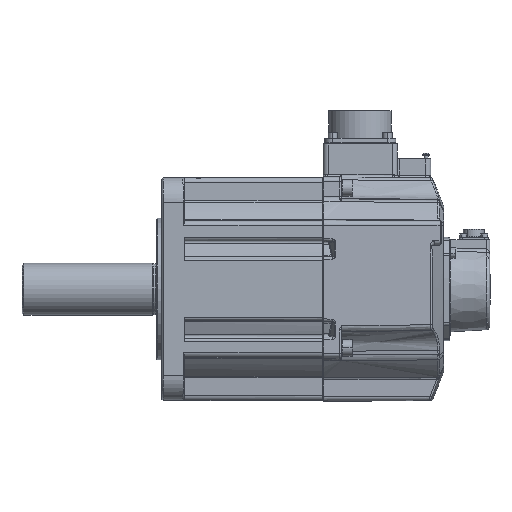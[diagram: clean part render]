
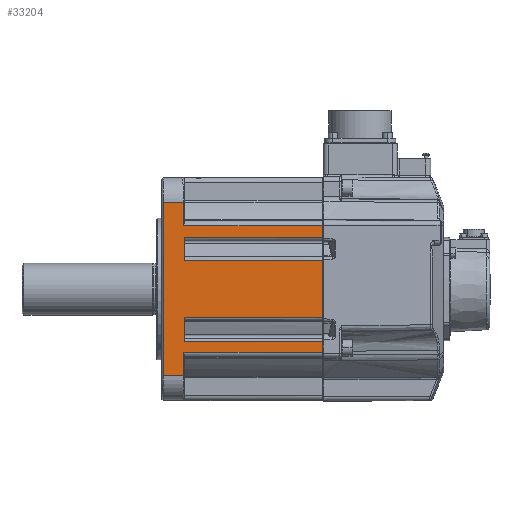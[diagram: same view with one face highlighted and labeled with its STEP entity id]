
A CAD part, left-side view. The second image highlights one B-rep face of the part: STEP entity #33204.
In plain terms, the highlighted planar face has unit normal (-1, 0, 0).
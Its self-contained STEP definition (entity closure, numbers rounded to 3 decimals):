
#1126=DIRECTION('',(0.,0.,-1.));
#1127=VECTOR('',#1126,9.155);
#1128=CARTESIAN_POINT('',(-90.,-103.3,-41.948));
#1129=LINE('',#1128,#1127);
#1242=DIRECTION('',(0.,1.,0.));
#1243=VECTOR('',#1242,111.8);
#1244=CARTESIAN_POINT('',(-90.,-103.3,41.948));
#1245=LINE('',#1244,#1243);
#1246=DIRECTION('',(0.,1.,0.));
#1247=VECTOR('',#1246,111.8);
#1248=CARTESIAN_POINT('',(-90.,-103.3,23.052));
#1249=LINE('',#1248,#1247);
#1250=DIRECTION('',(0.,0.,-1.));
#1251=VECTOR('',#1250,46.103);
#1252=CARTESIAN_POINT('',(-90.,-103.3,23.052));
#1253=LINE('',#1252,#1251);
#1254=DIRECTION('',(0.,1.,0.));
#1255=VECTOR('',#1254,111.8);
#1256=CARTESIAN_POINT('',(-90.,-103.3,-23.052));
#1257=LINE('',#1256,#1255);
#1258=DIRECTION('',(0.,1.,0.));
#1259=VECTOR('',#1258,111.8);
#1260=CARTESIAN_POINT('',(-90.,-103.3,-41.948));
#1261=LINE('',#1260,#1259);
#1262=DIRECTION('',(0.,1.,0.));
#1263=VECTOR('',#1262,112.121);
#1264=CARTESIAN_POINT('',(-90.,-103.3,-51.103));
#1265=LINE('',#1264,#1263);
#1266=DIRECTION('',(0.,1.,0.));
#1267=VECTOR('',#1266,16.349);
#1268=CARTESIAN_POINT('',(-90.,9.151,
-70.));
#1269=LINE('',#1268,#1267);
#1270=DIRECTION('',(0.,0.,1.));
#1271=VECTOR('',#1270,140.);
#1272=CARTESIAN_POINT('',(-90.,25.5,
-70.));
#1273=LINE('',#1272,#1271);
#1274=DIRECTION('',(0.,-1.,0.));
#1275=VECTOR('',#1274,112.121);
#1276=CARTESIAN_POINT('',(-90.,8.821,51.103));
#1277=LINE('',#1276,#1275);
#1376=DIRECTION('',(0.,0.,-1.));
#1377=VECTOR('',#1376,9.155);
#1378=CARTESIAN_POINT('',(-90.,-103.3,51.103));
#1379=LINE('',#1378,#1377);
#2010=CARTESIAN_POINT('',(-90.,9.151,70.));
#2012=DIRECTION('',(0.,1.,0.));
#2013=VECTOR('',#2012,16.349);
#2014=CARTESIAN_POINT('',(-90.,9.151,70.));
#2015=LINE('',#2014,#2013);
#2332=DIRECTION('',(0.,0.017,1.));
#2333=VECTOR('',#2332,18.9);
#2334=CARTESIAN_POINT('',(-90.,8.821,51.103));
#2335=LINE('',#2334,#2333);
#2371=CARTESIAN_POINT('',(-90.,9.151,
-70.));
#2510=DIRECTION('',(0.,-0.017,1.));
#2511=VECTOR('',#2510,18.9);
#2512=CARTESIAN_POINT('',(-90.,9.151,
-70.));
#2513=LINE('',#2512,#2511);
#15280=DIRECTION('',(0.,0.,1.));
#15281=VECTOR('',#15280,18.897);
#15282=CARTESIAN_POINT('',(-90.,8.5,23.052));
#15283=LINE('',#15282,#15281);
#26703=DIRECTION('',(0.,0.,1.));
#26704=VECTOR('',#26703,18.897);
#26705=CARTESIAN_POINT('',(-90.,8.5,-41.948));
#26706=LINE('',#26705,#26704);
#27678=CARTESIAN_POINT('',(-90.,25.5,-70.));
#27679=VERTEX_POINT('',#27678);
#27682=CARTESIAN_POINT('',(-90.,25.5,
70.));
#27683=VERTEX_POINT('',#27682);
#27769=VERTEX_POINT('',#2010);
#27772=VERTEX_POINT('',#2371);
#27892=CARTESIAN_POINT('',(-90.,-103.3,41.948));
#27893=CARTESIAN_POINT('',(-90.,8.5,41.948));
#27894=VERTEX_POINT('',#27892);
#27895=VERTEX_POINT('',#27893);
#27904=CARTESIAN_POINT('',(-90.,-103.3,23.052));
#27905=VERTEX_POINT('',#27904);
#27906=CARTESIAN_POINT('',(-90.,8.5,23.052));
#27907=VERTEX_POINT('',#27906);
#27912=CARTESIAN_POINT('',(-90.,-103.3,-41.948));
#27913=VERTEX_POINT('',#27912);
#27914=CARTESIAN_POINT('',(-90.,8.5,-41.948));
#27915=VERTEX_POINT('',#27914);
#27916=CARTESIAN_POINT('',(-90.,-103.3,-23.052));
#27917=CARTESIAN_POINT('',(-90.,8.5,-23.052));
#27918=VERTEX_POINT('',#27916);
#27919=VERTEX_POINT('',#27917);
#28012=CARTESIAN_POINT('',(-90.,-103.3,-51.103));
#28013=CARTESIAN_POINT('',(-90.,8.821,-51.103));
#28014=VERTEX_POINT('',#28012);
#28015=VERTEX_POINT('',#28013);
#28021=CARTESIAN_POINT('',(-90.,-103.3,51.103));
#28023=VERTEX_POINT('',#28021);
#28024=CARTESIAN_POINT('',(-90.,8.821,51.103));
#28025=VERTEX_POINT('',#28024);
#33167=CARTESIAN_POINT('',(-90.,26.5,-70.));
#33168=DIRECTION('',(-1.,0.,0.));
#33169=DIRECTION('',(0.,0.,1.));
#33170=AXIS2_PLACEMENT_3D('',#33167,#33168,#33169);
#33171=PLANE('',#33170);
#33173=ORIENTED_EDGE('',*,*,#33172,.T.);
#33175=ORIENTED_EDGE('',*,*,#33174,.F.);
#33177=ORIENTED_EDGE('',*,*,#33176,.F.);
#33179=ORIENTED_EDGE('',*,*,#33178,.T.);
#33181=ORIENTED_EDGE('',*,*,#33180,.T.);
#33183=ORIENTED_EDGE('',*,*,#33182,.F.);
#33184=ORIENTED_EDGE('',*,*,#33160,.F.);
#33185=ORIENTED_EDGE('',*,*,#32984,.T.);
#33187=ORIENTED_EDGE('',*,*,#33186,.T.);
#33189=ORIENTED_EDGE('',*,*,#33188,.F.);
#33191=ORIENTED_EDGE('',*,*,#33190,.T.);
#33193=ORIENTED_EDGE('',*,*,#33192,.T.);
#33195=ORIENTED_EDGE('',*,*,#33194,.F.);
#33197=ORIENTED_EDGE('',*,*,#33196,.F.);
#33199=ORIENTED_EDGE('',*,*,#33198,.T.);
#33201=ORIENTED_EDGE('',*,*,#33200,.T.);
#33202=EDGE_LOOP('',(#33173,#33175,#33177,#33179,#33181,#33183,#33184,#33185,
#33187,#33189,#33191,#33193,#33195,#33197,#33199,#33201));
#33203=FACE_OUTER_BOUND('',#33202,.F.);
#33204=ADVANCED_FACE('',(#33203),#33171,.T.);
#32984=EDGE_CURVE('',#27913,#28014,#1129,.T.);
#33160=EDGE_CURVE('',#27913,#27915,#1261,.T.);
#33172=EDGE_CURVE('',#27894,#27895,#1245,.T.);
#33174=EDGE_CURVE('',#27907,#27895,#15283,.T.);
#33176=EDGE_CURVE('',#27905,#27907,#1249,.T.);
#33178=EDGE_CURVE('',#27905,#27918,#1253,.T.);
#33180=EDGE_CURVE('',#27918,#27919,#1257,.T.);
#33182=EDGE_CURVE('',#27915,#27919,#26706,.T.);
#33186=EDGE_CURVE('',#28014,#28015,#1265,.T.);
#33188=EDGE_CURVE('',#27772,#28015,#2513,.T.);
#33190=EDGE_CURVE('',#27772,#27679,#1269,.T.);
#33192=EDGE_CURVE('',#27679,#27683,#1273,.T.);
#33194=EDGE_CURVE('',#27769,#27683,#2015,.T.);
#33196=EDGE_CURVE('',#28025,#27769,#2335,.T.);
#33198=EDGE_CURVE('',#28025,#28023,#1277,.T.);
#33200=EDGE_CURVE('',#28023,#27894,#1379,.T.);
